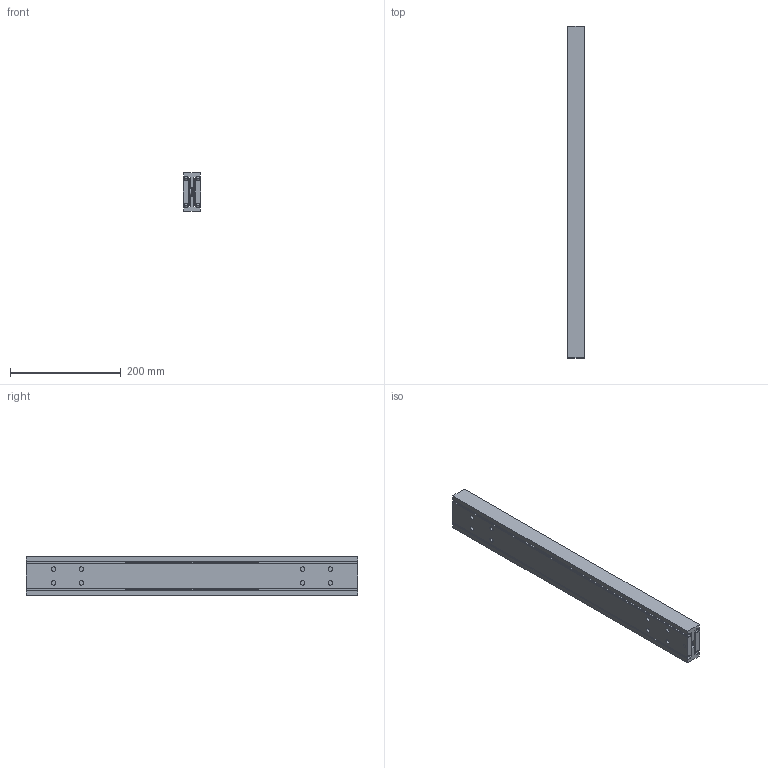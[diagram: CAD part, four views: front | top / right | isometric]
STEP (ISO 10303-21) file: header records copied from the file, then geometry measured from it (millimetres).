
FILE_DESCRIPTION(/* description */ (''),/* implementation_level */ '2;1');
FILE_NAME(/* name */ 'D:\Zeichnungen Schienen Komplett\MX-DTP70\MX-DTP70.060\MX-DTP70.060_eingefahren.step',/* time_stamp */ '2022-03-03T12:38:33+01:00',/* author */ ('zmile'),/* organization */ (''),/* preprocessor_version */ 'ST-DEVELOPER v16.13',/* originating_system */ 'AutoCAD Mechanical',/* authorisation */ '');
FILE_SCHEMA (('AUTOMOTIVE_DESIGN { 1 0 10303 214 3 1 1 }'));
Length unit declared in the file: millimetre
Products named in the file (1): Product
Bounding box: 32 x 600 x 70 mm (x, y, z)
Volume: 1021720.6 mm3; surface area: 365175 mm2
Topology: 37 solids, 39 shells, 158 faces, 488 edges, 344 vertices
Faces by surface type: plane 82, sphere 32, cylinder 30, bspline 8, torus 6
Full cylindrical faces by diameter (mm): 8 x16, 13 x2
Entity records: 11603 total; most frequent: CARTESIAN_POINT 7355, DIRECTION 850, ORIENTED_EDGE 700, EDGE_CURVE 398, VERTEX_POINT 342, AXIS2_PLACEMENT_3D 319, EDGE_LOOP 282, LINE 212
